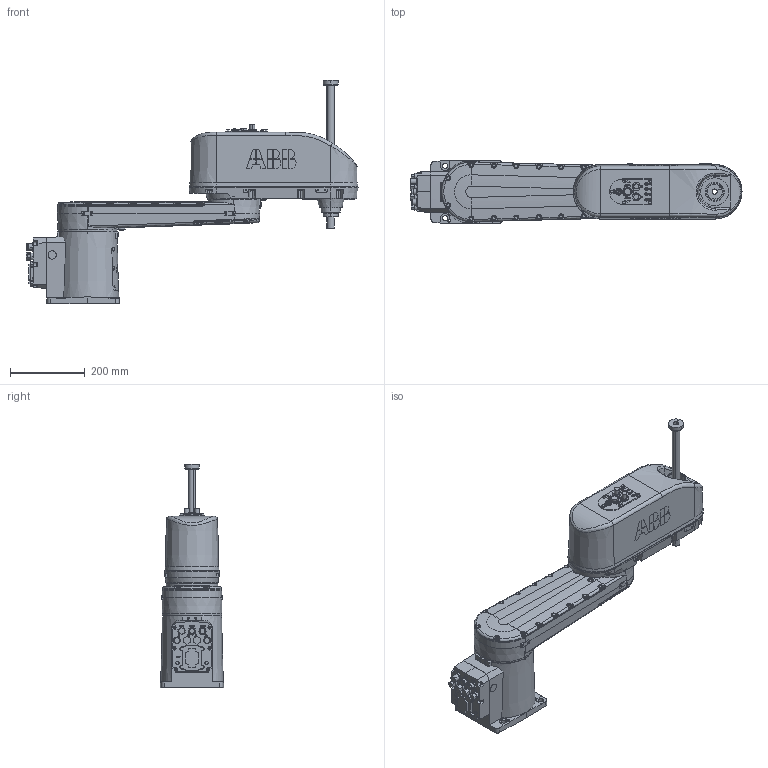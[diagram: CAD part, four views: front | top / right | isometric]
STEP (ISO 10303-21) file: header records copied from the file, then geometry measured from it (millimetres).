
FILE_DESCRIPTION (( 'STEP AP214' ), '1' );
FILE_NAME ('IRB920T_6kg-650-180-STD_OmniCore_rev00_Assembly.step', '2021-08-23T03:29:23', ( '' ), ( '' ), 'SwSTEP 2.0', 'SolidWorks 2018', '' );
FILE_SCHEMA (( 'AUTOMOTIVE_DESIGN' ));
Length unit declared in the file: millimetre
Products named in the file (5): IRB920T_6kg-650-180-STD_OmniCore_rev00_LINK3_CAD; IRB920T_6kg-650-180-STD_OmniCore_rev00_Assembly; IRB920T_6kg-650-180-STD_OmniCore_rev00_LINK1_CAD; IRB920T_6kg-650-180-STD_OmniCore_rev00_LINK0_CAD; IRB920T_6kg-650-180-STD_OmniCore_rev00_LINK2_CAD
Assembly tree (4 placements, depth 2):
  IRB920T_6kg-650-180-STD_OmniCore_rev00_Assembly
    IRB920T_6kg-650-180-STD_OmniCore_rev00_LINK0_CAD
    IRB920T_6kg-650-180-STD_OmniCore_rev00_LINK1_CAD
    IRB920T_6kg-650-180-STD_OmniCore_rev00_LINK2_CAD
    IRB920T_6kg-650-180-STD_OmniCore_rev00_LINK3_CAD
Bounding box: 887 x 170 x 596.5 mm (x, y, z)
Volume: 20109605 mm3; surface area: 828562.9 mm2
Topology: 4 solids, 5 shells, 2216 faces, 5683 edges, 3688 vertices
Faces by surface type: plane 1203, cylinder 386, bspline 380, cone 233, torus 12, sphere 2
Entity records: 89944 total; most frequent: CARTESIAN_POINT 36821, ORIENTED_EDGE 11224, DIRECTION 8841, EDGE_CURVE 5612, VERTEX_POINT 3688, LINE 3363, VECTOR 3363, AXIS2_PLACEMENT_3D 2739
